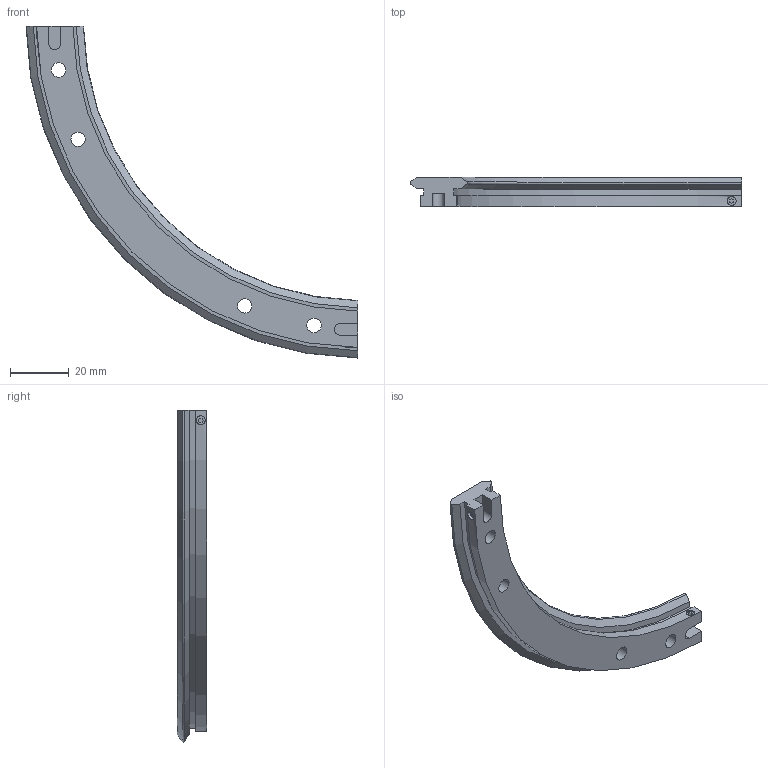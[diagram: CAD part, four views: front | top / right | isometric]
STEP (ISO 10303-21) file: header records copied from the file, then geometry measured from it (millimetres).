
FILE_DESCRIPTION( ( 'STEP AP203' ), '1' );
FILE_NAME( 'p:/temp/worker_23/temp/exporttempdir_3716_746_RQ8EB/format_0/TR20 210 R90.stp', '2021-09-17T07:38:35', ( 'License CC BY-ND 4.0' ), ( 'CADENAS' ), ' ', 'PARTsolutions', ' ' );
FILE_SCHEMA( ( 'CONFIG_CONTROL_DESIGN' ) );
Length unit declared in the file: millimetre
Products named in the file (1): _TR20 210 R90
Bounding box: 113.3 x 10 x 113.3 mm (x, y, z)
Volume: 20883.5 mm3; surface area: 10629.5 mm2
Topology: 1 solids, 1 shells, 74 faces, 182 edges, 122 vertices
Faces by surface type: plane 50, cylinder 18, cone 4, torus 2
Full cylindrical faces by diameter (mm): 3 x4, 4.9 x4, 8 x4
Entity records: 2384 total; most frequent: CARTESIAN_POINT 615, DIRECTION 342, ORIENTED_EDGE 336, EDGE_CURVE 168, VERTEX_POINT 120, AXIS2_PLACEMENT_3D 115, LINE 112, VECTOR 112
